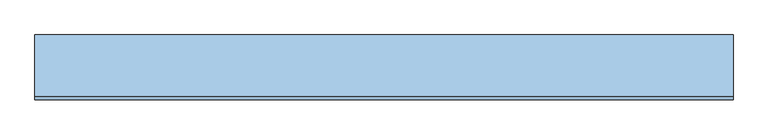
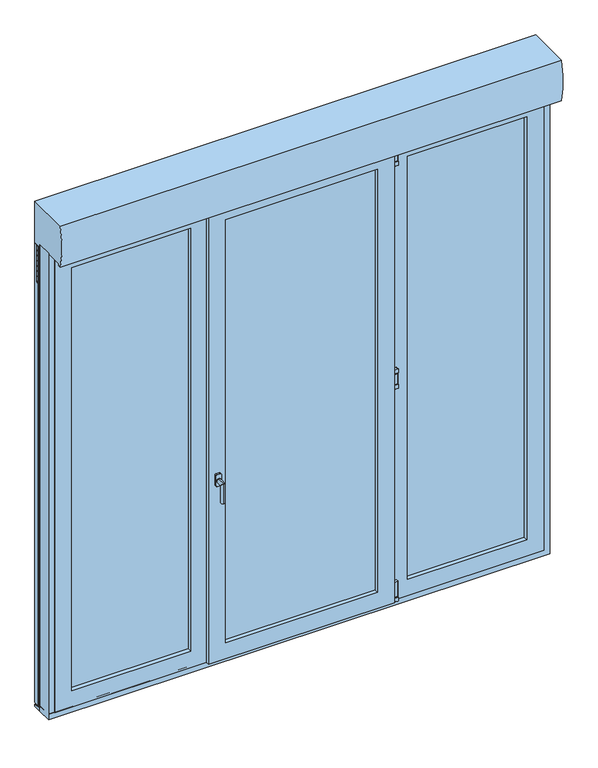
"""IFC4 building model written with IfcOpenShell, lengths in millimetres: window geometry, 25. PF1 + Fixe à G et à D ENR PVC-ALU : PF3  260X236 (LXH) cm."""

from ifc_helpers import new_model, si_unit, point, frame, frame_2d, origin, place, context, project, spatial, polyline, circle_curve, ellipse_curve, trimmed, segment, composite_curve, outline, extrude, faceted_brep, source, transform, mapped, element, save
from ifc_brep_helpers import plane_surface, cylinder_surface, advanced_brep


def window_10f17370(model_context):
    return source(origin(), model_context, "Body", "SolidModel", [
        extrude(outline(composite_curve([segment(polyline([(2311.552, 450.52), (2311.552, 465.52), (2329.5583831, 465.52)]), True, "CONTINUOUS"), segment(trimmed(circle_curve(frame_2d((2329.5583831, 463.5263831)), 1.9936169), [point((2329.5583831, 465.52))], [point((2331.552, 463.5263831))], False, "CARTESIAN"), True, "CONTINUOUS"), segment(polyline([(2331.552, 463.5263831), (2331.552, 452.4876754)]), True, "CONTINUOUS"), segment(trimmed(circle_curve(frame_2d((2329.5843246, 452.4876754)), 1.9676754), [point((2331.552, 452.4876754))], [point((2329.5843246, 450.52))], False, "CARTESIAN"), True, "CONTINUOUS"), segment(polyline([(2329.5843246, 450.52), (2311.552, 450.52)]), True, "CONTINUOUS")], self_intersect=False)), frame((0.0, -115.9543176, 0.0), z_axis=(0.0, 1.0, 0.0), x_axis=(0.0, 0.0, 1.0)), (0.0, 0.0, 1.0), 15.0),
        extrude(outline(composite_curve([segment(trimmed(circle_curve(frame_2d((458.2405562, -108.463906)), 5.0), [point((453.2405562, -108.463906))], [point((463.2405562, -108.463906))], False, "CARTESIAN"), True, "CONTINUOUS"), segment(trimmed(circle_curve(frame_2d((458.2405562, -108.463906)), 5.0), [point((463.2405562, -108.463906))], [point((453.2405562, -108.463906))], False, "CARTESIAN"), True, "CONTINUOUS")], self_intersect=False)), frame((0.0, 0.0, 2251.552), z_axis=(0.0, 0.0, 1.0), x_axis=(1.0, 0.0, 0.0)), (0.0, 0.0, 1.0), 60.0),
        extrude(outline(composite_curve([segment(polyline([(445.52, -100.963906), (463.5618237, -100.963906)]), True, "CONTINUOUS"), segment(trimmed(circle_curve(frame_2d((463.5618237, -102.9220823)), 1.9581763), [point((463.5618237, -100.963906))], [point((465.52, -102.9220823))], False, "CARTESIAN"), True, "CONTINUOUS"), segment(polyline([(465.52, -102.9220823), (465.52, -113.9457286)]), True, "CONTINUOUS"), segment(trimmed(circle_curve(frame_2d((463.5018225, -113.9457286)), 2.0181775), [point((465.52, -113.9457286))], [point((463.5018225, -115.963906))], False, "CARTESIAN"), True, "CONTINUOUS"), segment(polyline([(463.5018225, -115.963906), (445.52, -115.963906), (445.52, -100.963906)]), True, "CONTINUOUS")], self_intersect=False)), frame((0.0, 0.0, 2257.2784618), z_axis=(0.0, 0.0, 1.0), x_axis=(1.0, 0.0, 0.0)), (0.0, 0.0, 1.0), 50.0),
        extrude(outline(composite_curve([segment(polyline([(2252.2784618, 465.7405562), (2252.2784618, 450.7405562), (2234.2877116, 450.7405562)]), True, "CONTINUOUS"), segment(trimmed(circle_curve(frame_2d((2234.2877116, 452.7498059)), 2.0092498), [point((2234.2877116, 450.7405562))], [point((2232.2784618, 452.7498059))], False, "CARTESIAN"), True, "CONTINUOUS"), segment(polyline([(2232.2784618, 452.7498059), (2232.2784618, 464.0903507)]), True, "CONTINUOUS"), segment(trimmed(circle_curve(frame_2d((2234.2521312, 463.7668867)), 2.0), [point((2232.2784618, 464.0903507))], [point((2233.9286672, 465.7405562))], False, "CARTESIAN"), True, "CONTINUOUS"), segment(polyline([(2233.9286672, 465.7405562), (2252.2784618, 465.7405562)]), True, "CONTINUOUS")], self_intersect=False)), frame((0.0, -115.9543176, 0.0), z_axis=(0.0, 1.0, 0.0), x_axis=(0.0, 0.0, 1.0)), (0.0, 0.0, 1.0), 15.0),
        extrude(outline(composite_curve([segment(trimmed(circle_curve(frame_2d((458.3508343, -108.463906)), 5.0), [point((453.3508343, -108.463906))], [point((463.3508343, -108.463906))], False, "CARTESIAN"), True, "CONTINUOUS"), segment(trimmed(circle_curve(frame_2d((458.3508343, -108.463906)), 5.0), [point((463.3508343, -108.463906))], [point((453.3508343, -108.463906))], False, "CARTESIAN"), True, "CONTINUOUS")], self_intersect=False)), frame((0.0, 0.0, 48.448), z_axis=(0.0, 0.0, 1.0), x_axis=(1.0, 0.0, 0.0)), (0.0, 0.0, 1.0), 5.0),
        extrude(outline(composite_curve([segment(polyline([(48.448, 465.8508343), (48.448, 450.8508343), (30.4572498, 450.8508343)]), True, "CONTINUOUS"), segment(trimmed(circle_curve(frame_2d((30.4572498, 452.860084)), 2.0092498), [point((30.4572498, 450.8508343))], [point((28.448, 452.860084))], False, "CARTESIAN"), True, "CONTINUOUS"), segment(polyline([(28.448, 452.860084), (28.448, 464.2006288)]), True, "CONTINUOUS"), segment(trimmed(circle_curve(frame_2d((30.4216694, 463.8771648)), 2.0), [point((28.448, 464.2006288))], [point((30.0982054, 465.8508343))], False, "CARTESIAN"), True, "CONTINUOUS"), segment(polyline([(30.0982054, 465.8508343), (48.448, 465.8508343)]), True, "CONTINUOUS")], self_intersect=False)), frame((0.0, -115.9543176, 0.0), z_axis=(0.0, 1.0, 0.0), x_axis=(0.0, 0.0, 1.0)), (0.0, 0.0, 1.0), 15.0),
        extrude(outline(composite_curve([segment(polyline([(445.6302781, -100.963906), (463.6721018, -100.963906)]), True, "CONTINUOUS"), segment(trimmed(circle_curve(frame_2d((463.6721018, -102.9220823)), 1.9581763), [point((463.6721018, -100.963906))], [point((465.6302781, -102.9220823))], False, "CARTESIAN"), True, "CONTINUOUS"), segment(polyline([(465.6302781, -102.9220823), (465.6302781, -113.9457286)]), True, "CONTINUOUS"), segment(trimmed(circle_curve(frame_2d((463.6121006, -113.9457286)), 2.0181775), [point((465.6302781, -113.9457286))], [point((463.6121006, -115.963906))], False, "CARTESIAN"), True, "CONTINUOUS"), segment(polyline([(463.6121006, -115.963906), (445.6302781, -115.963906), (445.6302781, -100.963906)]), True, "CONTINUOUS")], self_intersect=False)), frame((0.0, 0.0, 53.448), z_axis=(0.0, 0.0, 1.0), x_axis=(1.0, 0.0, 0.0)), (0.0, 0.0, 1.0), 75.0),
        extrude(outline(composite_curve([segment(polyline([(1183.7215382, 450.52), (1183.7215382, 465.52), (1201.7279213, 465.52)]), True, "CONTINUOUS"), segment(trimmed(circle_curve(frame_2d((1201.7279213, 463.5263831)), 1.9936169), [point((1201.7279213, 465.52))], [point((1203.7215382, 463.5263831))], False, "CARTESIAN"), True, "CONTINUOUS"), segment(polyline([(1203.7215382, 463.5263831), (1203.7215382, 452.4876754)]), True, "CONTINUOUS"), segment(trimmed(circle_curve(frame_2d((1201.7538628, 452.4876754)), 1.9676754), [point((1203.7215382, 452.4876754))], [point((1201.7538628, 450.52))], False, "CARTESIAN"), True, "CONTINUOUS"), segment(polyline([(1201.7538628, 450.52), (1183.7215382, 450.52)]), True, "CONTINUOUS")], self_intersect=False)), frame((0.0, -115.9543176, 0.0), z_axis=(0.0, 1.0, 0.0), x_axis=(0.0, 0.0, 1.0)), (0.0, 0.0, 1.0), 15.0),
        extrude(outline(composite_curve([segment(trimmed(circle_curve(frame_2d((458.2405562, -108.463906)), 5.0), [point((453.2405562, -108.463906))], [point((463.2405562, -108.463906))], False, "CARTESIAN"), True, "CONTINUOUS"), segment(trimmed(circle_curve(frame_2d((458.2405562, -108.463906)), 5.0), [point((463.2405562, -108.463906))], [point((453.2405562, -108.463906))], False, "CARTESIAN"), True, "CONTINUOUS")], self_intersect=False)), frame((0.0, 0.0, 1123.7215382), z_axis=(0.0, 0.0, 1.0), x_axis=(1.0, 0.0, 0.0)), (0.0, 0.0, 1.0), 60.0),
        extrude(outline(composite_curve([segment(polyline([(445.52, -100.963906), (463.5618237, -100.963906)]), True, "CONTINUOUS"), segment(trimmed(circle_curve(frame_2d((463.5618237, -102.9220823)), 1.9581763), [point((463.5618237, -100.963906))], [point((465.52, -102.9220823))], False, "CARTESIAN"), True, "CONTINUOUS"), segment(polyline([(465.52, -102.9220823), (465.52, -113.9457286)]), True, "CONTINUOUS"), segment(trimmed(circle_curve(frame_2d((463.5018225, -113.9457286)), 2.0181775), [point((465.52, -113.9457286))], [point((463.5018225, -115.963906))], False, "CARTESIAN"), True, "CONTINUOUS"), segment(polyline([(463.5018225, -115.963906), (445.52, -115.963906), (445.52, -100.963906)]), True, "CONTINUOUS")], self_intersect=False)), frame((0.0, 0.0, 1129.448), z_axis=(0.0, 0.0, 1.0), x_axis=(1.0, 0.0, 0.0)), (0.0, 0.0, 1.0), 50.0),
        extrude(outline(composite_curve([segment(polyline([(1124.448, 465.7405562), (1124.448, 450.7405562), (1106.4572498, 450.7405562)]), True, "CONTINUOUS"), segment(trimmed(circle_curve(frame_2d((1106.4572498, 452.7498059)), 2.0092498), [point((1106.4572498, 450.7405562))], [point((1104.448, 452.7498059))], False, "CARTESIAN"), True, "CONTINUOUS"), segment(polyline([(1104.448, 452.7498059), (1104.448, 464.0903507)]), True, "CONTINUOUS"), segment(trimmed(circle_curve(frame_2d((1106.4216694, 463.7668867)), 2.0), [point((1104.448, 464.0903507))], [point((1106.0982054, 465.7405562))], False, "CARTESIAN"), True, "CONTINUOUS"), segment(polyline([(1106.0982054, 465.7405562), (1124.448, 465.7405562)]), True, "CONTINUOUS")], self_intersect=False)), frame((0.0, -115.9543176, 0.0), z_axis=(0.0, 1.0, 0.0), x_axis=(0.0, 0.0, 1.0)), (0.0, 0.0, 1.0), 15.0),
        advanced_brep(
        [(-394.08, -129.3239543, 981.448), (-409.08, -129.3239543, 981.448), (-414.08, -129.3239543, 976.448), (-414.08, -129.3239543, 926.448), (-409.08, -129.3239543, 921.448), (-394.08, -129.3239543, 921.448), (-389.08, -129.3239543, 926.448), (-389.08, -129.3239543, 976.448), (-401.3028127, -129.3239543, 959.2518349), (-401.3028127, -129.3239543, 939.2518349), (-394.08, -119.3239543, 981.448), (-389.08, -119.3239543, 976.448), (-389.08, -119.3239543, 926.448), (-394.08, -119.3239543, 921.448), (-409.08, -119.3239543, 921.448), (-414.08, -119.3239543, 926.448), (-414.08, -119.3239543, 976.448), (-409.08, -119.3239543, 981.448), (-401.3028127, -133.0531938, 939.2518349), (-401.3028127, -133.0531938, 959.2518349), (-401.3028127, -173.0531938, 959.2518349), (-401.3028127, -153.0531938, 939.2518349), (-401.3028127, -173.0531938, 859.2518349), (-401.3028127, -153.0531938, 859.2518349)],
        [
            (0, 1),
            (1, 2, circle_curve(frame((-409.08, -129.3239543, 976.448), z_axis=(0.0, -1.0, 0.0), x_axis=(-1.0, 0.0, 0.0)), 5.0)),
            (2, 3),
            (3, 4, circle_curve(frame((-409.08, -129.3239543, 926.448), z_axis=(0.0, -1.0, 0.0), x_axis=(-1.0, 0.0, 0.0)), 5.0)),
            (4, 5),
            (5, 6, circle_curve(frame((-394.08, -129.3239543, 926.448), z_axis=(0.0, -1.0, 0.0), x_axis=(-1.0, 0.0, 0.0)), 5.0)),
            (6, 7),
            (7, 0, circle_curve(frame((-394.08, -129.3239543, 976.448), z_axis=(0.0, -1.0, 0.0), x_axis=(-1.0, 0.0, 0.0)), 5.0)),
            (8, 9, circle_curve(frame((-401.3028127, -129.3239543, 949.2518349), z_axis=(0.0, 1.0, 0.0), x_axis=(0.0, 0.0, -1.0)), 10.0)),
            (9, 8, circle_curve(frame((-401.3028127, -129.3239543, 949.2518349), z_axis=(0.0, 1.0, 0.0), x_axis=(0.0, 0.0, -1.0)), 10.0)),
            (10, 11, circle_curve(frame((-394.08, -119.3239543, 976.448), z_axis=(0.0, 1.0, 0.0), x_axis=(-1.0, 0.0, 0.0)), 5.0)),
            (11, 12),
            (12, 13, circle_curve(frame((-394.08, -119.3239543, 926.448), z_axis=(0.0, 1.0, 0.0), x_axis=(-1.0, 0.0, 0.0)), 5.0)),
            (13, 14),
            (14, 15, circle_curve(frame((-409.08, -119.3239543, 926.448), z_axis=(0.0, 1.0, 0.0), x_axis=(-1.0, 0.0, 0.0)), 5.0)),
            (15, 16),
            (16, 17, circle_curve(frame((-409.08, -119.3239543, 976.448), z_axis=(0.0, 1.0, 0.0), x_axis=(-1.0, 0.0, 0.0)), 5.0)),
            (17, 10),
            (7, 11),
            (10, 0),
            (6, 12),
            (5, 13),
            (4, 14),
            (3, 15),
            (2, 16),
            (1, 17),
            (18, 19, circle_curve(frame((-401.3028127, -133.0531938, 949.2518349), z_axis=(0.0, -1.0, 0.0), x_axis=(0.0, 0.0, -1.0)), 10.0)),
            (19, 20),
            (20, 21, ellipse_curve(frame((-401.3028127, -163.0531938, 949.2518349), z_axis=(0.0, 0.7071067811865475, 0.7071067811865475), x_axis=(0.0, 0.7071067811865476, -0.7071067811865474)), 14.1421356, 10.0)),
            (21, 18),
            (19, 18, circle_curve(frame((-401.3028127, -133.0531938, 949.2518349), z_axis=(0.0, -1.0, 0.0), x_axis=(0.0, 0.0, -1.0)), 10.0)),
            (21, 20, ellipse_curve(frame((-401.3028127, -163.0531938, 949.2518349), z_axis=(0.0, 0.7071067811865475, 0.7071067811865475), x_axis=(0.0, 0.7071067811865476, -0.7071067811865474)), 14.1421356, 10.0)),
            (22, 23, circle_curve(frame((-401.3028127, -163.0531938, 859.2518349), z_axis=(0.0, 0.0, -1.0), x_axis=(0.0, 1.0, 0.0)), 10.0)),
            (23, 22, circle_curve(frame((-401.3028127, -163.0531938, 859.2518349), z_axis=(0.0, 0.0, -1.0), x_axis=(0.0, 1.0, 0.0)), 10.0)),
            (20, 22),
            (23, 21),
            (18, 9),
            (8, 19),
        ],
        [
            plane_surface(frame((-399.08, -129.3239543, 976.448), z_axis=(0.0, -1.0, 0.0), x_axis=(0.0, 0.0, -1.0))),
            plane_surface(frame((-399.08, -119.3239543, 976.448), z_axis=(0.0, 1.0, 0.0), x_axis=(0.0, 0.0, 1.0))),
            cylinder_surface(frame((-394.08, -129.3239543, 976.448), z_axis=(0.0, 1.0, 0.0), x_axis=(-1.0, 0.0, 0.0)), 5.0),
            plane_surface(frame((-389.08, -119.3239543, 976.448), z_axis=(1.0, 0.0, 0.0), x_axis=(0.0, -1.0, 0.0))),
            cylinder_surface(frame((-394.08, -129.3239543, 926.448), z_axis=(0.0, 1.0, 0.0), x_axis=(-1.0, 0.0, 0.0)), 5.0),
            plane_surface(frame((-394.08, -119.3239543, 921.448), z_axis=(0.0, 0.0, -1.0), x_axis=(0.0, -1.0, 0.0))),
            cylinder_surface(frame((-409.08, -129.3239543, 926.448), z_axis=(0.0, 1.0, 0.0), x_axis=(-1.0, 0.0, 0.0)), 5.0),
            plane_surface(frame((-414.08, -119.3239543, 926.448), z_axis=(-1.0, 0.0, 0.0), x_axis=(0.0, -1.0, 0.0))),
            cylinder_surface(frame((-409.08, -129.3239543, 976.448), z_axis=(0.0, 1.0, 0.0), x_axis=(-1.0, 0.0, 0.0)), 5.0),
            plane_surface(frame((-409.08, -119.3239543, 981.448), z_axis=(0.0, 0.0, 1.0), x_axis=(0.0, -1.0, 0.0))),
            cylinder_surface(frame((-401.3028127, -133.0531938, 949.2518349), z_axis=(0.0, 1.0, 0.0), x_axis=(0.0, 0.0, -1.0)), 10.0),
            plane_surface(frame((-389.08, -163.0531938, 859.2518349), z_axis=(0.0, 0.0, -1.0), x_axis=(1.0, 0.0, 0.0))),
            cylinder_surface(frame((-401.3028127, -163.0531938, 949.2518349), z_axis=(0.0, 0.0, 1.0), x_axis=(0.0, 1.0, 0.0)), 10.0),
            cylinder_surface(frame((-401.3028127, -129.3239543, 949.2518349), z_axis=(0.0, 1.0, 0.0), x_axis=(0.0, 0.0, -1.0)), 10.0),
        ],
        [
            (0, [[1, 2, 3, 4, 5, 6, 7, 8], [9, 10]]),
            (1, [[11, 12, 13, 14, 15, 16, 17, 18]]),
            (2, [[-8, 19, -11, 20]]),
            (3, [[-7, 21, -12, -19]]),
            (4, [[-6, 22, -13, -21]]),
            (5, [[-5, 23, -14, -22]]),
            (6, [[-4, 24, -15, -23]]),
            (7, [[-3, 25, -16, -24]]),
            (8, [[-2, 26, -17, -25]]),
            (9, [[-1, -20, -18, -26]]),
            (10, [[27, 28, 29, 30]]),
            (10, [[-28, 31, -30, 32]]),
            (11, [[33, 34]]),
            (12, [[-29, 35, -34, 36]]),
            (12, [[-32, -36, -33, -35]]),
            (13, [[-27, 37, -9, 38]]),
            (13, [[-31, -38, -10, -37]]),
        ],
    ),
        faceted_brep([(-1200.0, -100.02, 2360.0), (-1200.0, -28.9, 2360.0), (-1200.0, -28.9, 0.0), (-1200.0, -100.02, 0.0), (1200.0, -28.9, 2360.0), (1200.0, -28.9, 0.0), (-1142.0983858, -28.9, 57.9016142), (1142.0983858, -28.9, 57.9016142), (1142.0983858, -28.9, 2302.0983858), (-1142.0983858, -28.9, 2302.0983858), (1200.0, -100.02, 0.0), (1200.0, -100.02, 2360.0), (-1163.424, -100.02, 2323.424), (1163.424, -100.02, 2323.424), (1163.424, -100.02, 36.576), (-1163.424, -100.02, 36.576), (-1163.424, -44.648, 2323.424), (-1163.424, -44.648, 36.576), (1163.424, -44.648, 36.576), (1163.424, -44.648, 2323.424), (-1142.0983858, -44.648, 2302.0983858), (1142.0983858, -44.648, 2302.0983858), (1142.0983858, -44.648, 57.9016142), (-1142.0983858, -44.648, 57.9016142)], [[[0, 1, 2, 3]], [[1, 4, 5, 2], [6, 7, 8, 9]], [[3, 2, 5, 10]], [[3, 10, 11, 0], [12, 13, 14, 15]], [[16, 12, 15, 17]], [[17, 15, 14, 18]], [[17, 18, 19, 16], [20, 21, 22, 23]], [[9, 20, 23, 6]], [[6, 23, 22, 7]], [[10, 5, 4, 11]], [[18, 14, 13, 19]], [[7, 22, 21, 8]], [[11, 4, 1, 0]], [[19, 13, 12, 16]], [[8, 21, 20, 9]]]),
        extrude(outline(polyline([(-1103.4, -79.613906), (-1103.4, -75.613906), (-505.5, -75.613906), (-505.5, -79.613906), (-1103.4, -79.613906)])), frame((0.0, 0.0, 96.5824883), z_axis=(0.0, 0.0, 1.0), x_axis=(1.0, 0.0, 0.0)), (0.0, 0.0, 1.0), 2166.8350233),
        extrude(outline(polyline([(-1103.4, -55.6171544), (-1103.4, -51.6171544), (-505.5, -51.6171544), (-505.5, -55.6171544), (-1103.4, -55.6171544)])), frame((0.0, 0.0, 96.5824883), z_axis=(0.0, 0.0, 1.0), x_axis=(1.0, 0.0, 0.0)), (0.0, 0.0, 1.0), 2166.8350233),
        extrude(outline(polyline([(377.4, -41.9821328), (377.4, -45.9734215), (-377.5, -45.9734215), (-377.5, -41.9821328), (377.4, -41.9821328)])), frame((0.0, 0.0, 96.5824883), z_axis=(0.0, 0.0, 1.0), x_axis=(1.0, 0.0, 0.0)), (0.0, 0.0, 1.0), 2166.8350233),
        extrude(outline(polyline([(377.4, -96.019954), (377.4, -100.019954), (-377.5, -100.019954), (-377.5, -96.019954), (377.4, -96.019954)])), frame((0.0, 0.0, 96.5824883), z_axis=(0.0, 0.0, 1.0), x_axis=(1.0, 0.0, 0.0)), (0.0, 0.0, 1.0), 2166.8350233),
        extrude(outline(polyline([(377.4, -68.9786213), (377.4, -72.9786213), (-377.5, -72.9786213), (-377.5, -68.9786213), (377.4, -68.9786213)])), frame((0.0, 0.0, 96.5824883), z_axis=(0.0, 0.0, 1.0), x_axis=(1.0, 0.0, 0.0)), (0.0, 0.0, 1.0), 2166.8350233),
        extrude(outline(polyline([(1103.4, -75.613906), (1103.4, -79.613906), (505.5, -79.613906), (505.5, -75.613906), (1103.4, -75.613906)])), frame((0.0, 0.0, 96.5824883), z_axis=(0.0, 0.0, 1.0), x_axis=(1.0, 0.0, 0.0)), (0.0, 0.0, 1.0), 2166.8350233),
        extrude(outline(polyline([(1103.4, -51.6171544), (1103.4, -55.6171544), (505.5, -55.6171544), (505.5, -51.6171544), (1103.4, -51.6171544)])), frame((0.0, 0.0, 96.5824883), z_axis=(0.0, 0.0, 1.0), x_axis=(1.0, 0.0, 0.0)), (0.0, 0.0, 1.0), 2166.8350233),
        faceted_brep([(385.5726701, -48.2039543, 2271.6086701), (385.5726701, -100.019954, 2271.6086701), (385.5726701, -100.019954, 88.3913299), (385.5726701, -48.2039543, 88.3913299), (-385.6926701, -100.019954, 2271.6086701), (-385.6926701, -100.019954, 88.3913299), (377.3815117, -100.019954, 2263.4175117), (377.3815117, -100.019954, 96.5824883), (-377.5015117, -100.019954, 96.5824883), (-377.5015117, -100.019954, 2263.4175117), (-385.6926701, -48.2039543, 88.3913299), (-410.6354701, -48.2039543, 2296.5514701), (-410.6354701, -48.2039543, 63.4485299), (410.5154701, -48.2039543, 63.4485299), (410.5154701, -48.2039543, 2296.5514701), (-385.6926701, -48.2039543, 2271.6086701), (410.5154701, -28.7475756, 2296.5514701), (410.5154701, -28.7475756, 63.4485299), (-410.6354701, -28.7475756, 63.4485299), (-410.6354701, -28.7475756, 2296.5514701), (-359.4233386, -28.7475756, 2245.3393386), (-359.4233386, -28.7475756, 114.6606614), (359.3033386, -28.7475756, 114.6606614), (359.3033386, -28.7475756, 2245.3393386), (359.3033386, -41.5821328, 2245.3393386), (359.3033386, -41.5821328, 114.6606614), (-359.4233386, -41.5821328, 114.6606614), (-377.5015117, -41.5821328, 2263.4175117), (-377.5015117, -41.5821328, 96.5824883), (377.3815117, -41.5821328, 96.5824883), (377.3815117, -41.5821328, 2263.4175117), (-359.4233386, -41.5821328, 2245.3393386), (360.1614041, -68.9786213, 2246.1974041), (360.1614041, -47.5821328, 2246.1974041), (360.1614041, -47.5821328, 113.8025959), (360.1614041, -68.9786213, 113.8025959), (377.3815117, -47.5821328, 2263.4175117), (377.3815117, -47.5821328, 96.5824883), (-377.5015117, -47.5821328, 96.5824883), (-377.5015117, -47.5821328, 2263.4175117), (-360.2814041, -47.5821328, 2246.1974041), (-360.2814041, -47.5821328, 113.8025959), (-360.2814041, -68.9786213, 113.8025959), (-377.5015117, -68.9786213, 2263.4175117), (-377.5015117, -68.9786213, 96.5824883), (377.3815117, -68.9786213, 96.5824883), (377.3815117, -68.9786213, 2263.4175117), (-360.2814041, -68.9786213, 2246.1974041), (363.4880492, -96.019954, 2249.5240492), (363.4880492, -72.9786213, 2249.5240492), (363.4880492, -72.9786213, 110.4759508), (363.4880492, -96.019954, 110.4759508), (377.3815117, -72.9786213, 2263.4175117), (377.3815117, -72.9786213, 96.5824883), (-377.5015117, -72.9786213, 96.5824883), (-377.5015117, -72.9786213, 2263.4175117), (-363.6080492, -72.9786213, 2249.5240492), (-363.6080492, -72.9786213, 110.4759508), (-363.6080492, -96.019954, 110.4759508), (-377.5015117, -96.019954, 2263.4175117), (-377.5015117, -96.019954, 96.5824883), (377.3815117, -96.019954, 96.5824883), (377.3815117, -96.019954, 2263.4175117), (-363.6080492, -96.019954, 2249.5240492)], [[[0, 1, 2, 3]], [[4, 5, 2, 1], [6, 7, 8, 9]], [[3, 2, 5, 10]], [[11, 12, 13, 14], [0, 3, 10, 15]], [[16, 14, 13, 17]], [[17, 13, 12, 18]], [[16, 17, 18, 19], [20, 21, 22, 23]], [[24, 23, 22, 25]], [[25, 22, 21, 26]], [[27, 28, 29, 30], [24, 25, 26, 31]], [[32, 33, 34, 35]], [[36, 37, 38, 39], [40, 41, 34, 33]], [[35, 34, 41, 42]], [[43, 44, 45, 46], [32, 35, 42, 47]], [[48, 49, 50, 51]], [[52, 53, 54, 55], [56, 57, 50, 49]], [[51, 50, 57, 58]], [[59, 60, 61, 62], [48, 51, 58, 63]], [[6, 62, 61, 7]], [[7, 61, 60, 8]], [[36, 30, 29, 37]], [[37, 29, 28, 38]], [[52, 46, 45, 53]], [[53, 45, 44, 54]], [[58, 57, 56, 63]], [[8, 60, 59, 9]], [[10, 5, 4, 15]], [[18, 12, 11, 19]], [[26, 21, 20, 31]], [[38, 28, 27, 39]], [[42, 41, 40, 47]], [[54, 44, 43, 55]], [[15, 4, 1, 0]], [[19, 11, 14, 16]], [[31, 20, 23, 24]], [[47, 40, 33, 32]], [[63, 56, 49, 48]], [[9, 59, 62, 6]], [[39, 27, 30, 36]], [[55, 43, 46, 52]]]),
        faceted_brep([(-1142.0663858, -44.648, 2302.0983858), (-1142.0663858, -28.9, 2302.0983858), (-1142.0663858, -28.9, 57.9016142), (-1142.0663858, -44.648, 57.9016142), (-466.8456142, -28.9, 2302.0983858), (-466.8456142, -28.9, 57.9016142), (-1089.4920492, -28.9, 110.4759508), (-519.4199508, -28.9, 110.4759508), (-519.4199508, -28.9, 2249.5240492), (-1089.4920492, -28.9, 2249.5240492), (-466.8456142, -44.648, 57.9016142), (-1171.52, -44.648, 2331.552), (-437.392, -44.648, 2331.552), (-437.392, -44.648, 28.448), (-1171.52, -44.648, 28.448), (-466.8456142, -44.648, 2302.0983858), (-1089.4920492, -51.6171134, 110.4759508), (-519.4199508, -51.6171134, 110.4759508), (-519.4199508, -51.6171134, 2249.5240492), (-1089.4920492, -51.6171134, 2249.5240492), (-437.392, -100.963906, 28.448), (-437.392, -100.963906, 2331.552), (-1171.52, -100.963906, 28.448), (-1171.52, -100.963906, 2331.552), (-1089.4920492, -100.963906, 2249.5240492), (-519.4199508, -100.963906, 2249.5240492), (-519.4199508, -100.963906, 110.4759508), (-1089.4920492, -100.963906, 110.4759508), (-519.4199508, -79.613906, 110.4759508), (-519.4199508, -79.613906, 2249.5240492), (-1089.4920492, -79.613906, 110.4759508), (-1089.4920492, -79.613906, 2249.5240492), (-1103.3855117, -51.6171134, 96.5824883), (-505.5264883, -51.6171134, 96.5824883), (-505.5264883, -51.6171134, 2263.4175117), (-1103.3855117, -51.6171134, 2263.4175117), (-1103.3855117, -55.6171544, 2263.4175117), (-1103.3855117, -55.6171544, 96.5824883), (-505.5264883, -55.6171544, 2263.4175117), (-505.5264883, -55.6171544, 96.5824883), (-1089.4920492, -55.6171544, 110.4759508), (-519.4199508, -55.6171544, 110.4759508), (-519.4199508, -55.6171544, 2249.5240492), (-1089.4920492, -55.6171544, 2249.5240492), (-1103.3855117, -75.613906, 2263.4175117), (-1103.3855117, -79.613906, 2263.4175117), (-1103.3855117, -79.613906, 96.5824883), (-1103.3855117, -75.613906, 96.5824883), (-505.5264883, -79.613906, 2263.4175117), (-505.5264883, -79.613906, 96.5824883), (-505.5264883, -75.613906, 96.5824883), (-505.5264883, -75.613906, 2263.4175117), (-1089.4920492, -75.613906, 2249.5240492), (-519.4199508, -75.613906, 2249.5240492), (-519.4199508, -75.613906, 110.4759508), (-1089.4920492, -75.613906, 110.4759508)], [[[0, 1, 2, 3]], [[1, 4, 5, 2], [6, 7, 8, 9]], [[3, 2, 5, 10]], [[11, 12, 13, 14], [3, 10, 15, 0]], [[10, 5, 4, 15]], [[6, 16, 17, 7]], [[7, 17, 18, 8]], [[9, 19, 16, 6]], [[20, 13, 12, 21]], [[22, 14, 13, 20]], [[23, 11, 14, 22]], [[22, 20, 21, 23], [24, 25, 26, 27]], [[28, 26, 25, 29]], [[30, 27, 26, 28]], [[31, 24, 27, 30]], [[32, 33, 34, 35], [19, 18, 17, 16]], [[35, 36, 37, 32]], [[36, 38, 39, 37], [40, 41, 42, 43]], [[32, 37, 39, 33]], [[44, 45, 46, 47]], [[45, 48, 49, 46], [30, 28, 29, 31]], [[47, 46, 49, 50]], [[47, 50, 51, 44], [52, 53, 54, 55]], [[33, 39, 38, 34]], [[50, 49, 48, 51]], [[40, 55, 54, 41]], [[41, 54, 53, 42]], [[43, 52, 55, 40]], [[15, 4, 1, 0]], [[21, 12, 11, 23]], [[8, 18, 19, 9]], [[34, 38, 36, 35]], [[51, 48, 45, 44]], [[29, 25, 24, 31]], [[42, 53, 52, 43]]]),
        extrude(outline(polyline([(-437.392, -100.0), (-437.392, -44.648), (-466.8456142, -44.648), (-466.8456142, -28.9), (-410.5194701, -28.9), (-410.5194701, -44.648), (-425.2, -44.648), (-425.2, -100.0), (-437.392, -100.0)])), frame((0.0, 0.0, 57.9016142), z_axis=(0.0, 0.0, 1.0), x_axis=(1.0, 0.0, 0.0)), (0.0, 0.0, 1.0), 2244.1),
        extrude(outline(polyline([(437.392, -100.0), (425.2, -100.0), (425.2, -44.648), (410.5194701, -44.648), (410.5194701, -28.9), (466.8456142, -28.9), (466.8456142, -44.648), (437.392, -44.648), (437.392, -100.0)])), frame((0.0, 0.0, 57.9016142), z_axis=(0.0, 0.0, 1.0), x_axis=(1.0, 0.0, 0.0)), (0.0, 0.0, 1.0), 2244.1),
        faceted_brep([(1142.0663858, -28.9, 2302.0983858), (1142.0663858, -44.648, 2302.0983858), (1142.0663858, -44.648, 57.9016142), (1142.0663858, -28.9, 57.9016142), (1171.52, -44.648, 28.448), (437.392, -44.648, 28.448), (437.392, -44.648, 2331.552), (1171.52, -44.648, 2331.552), (466.8456142, -44.648, 2302.0983858), (466.8456142, -44.648, 57.9016142), (466.8456142, -28.9, 57.9016142), (466.8456142, -28.9, 2302.0983858), (1089.4920492, -28.9, 2249.5240492), (519.4199508, -28.9, 2249.5240492), (519.4199508, -28.9, 110.4759508), (1089.4920492, -28.9, 110.4759508), (519.4199508, -51.6171134, 110.4759508), (519.4199508, -51.6171134, 2249.5240492), (1089.4920492, -51.6171134, 110.4759508), (1089.4920492, -51.6171134, 2249.5240492), (1171.52, -100.963906, 28.448), (437.392, -100.963906, 28.448), (437.392, -100.963906, 2331.552), (1171.52, -100.963906, 2331.552), (1089.4920492, -100.963906, 110.4759508), (519.4199508, -100.963906, 110.4759508), (519.4199508, -100.963906, 2249.5240492), (1089.4920492, -100.963906, 2249.5240492), (1089.4920492, -79.613906, 110.4759508), (519.4199508, -79.613906, 110.4759508), (519.4199508, -79.613906, 2249.5240492), (1089.4920492, -79.613906, 2249.5240492), (1103.3855117, -51.6171134, 2263.4175117), (505.5264883, -51.6171134, 2263.4175117), (505.5264883, -51.6171134, 96.5824883), (1103.3855117, -51.6171134, 96.5824883), (1103.3855117, -55.6171544, 2263.4175117), (1103.3855117, -55.6171544, 96.5824883), (505.5264883, -55.6171544, 96.5824883), (505.5264883, -55.6171544, 2263.4175117), (1089.4920492, -55.6171544, 2249.5240492), (519.4199508, -55.6171544, 2249.5240492), (519.4199508, -55.6171544, 110.4759508), (1089.4920492, -55.6171544, 110.4759508), (1103.3855117, -79.613906, 2263.4175117), (1103.3855117, -75.613906, 2263.4175117), (1103.3855117, -75.613906, 96.5824883), (1103.3855117, -79.613906, 96.5824883), (505.5264883, -75.613906, 2263.4175117), (505.5264883, -75.613906, 96.5824883), (1089.4920492, -75.613906, 110.4759508), (519.4199508, -75.613906, 110.4759508), (519.4199508, -75.613906, 2249.5240492), (1089.4920492, -75.613906, 2249.5240492), (505.5264883, -79.613906, 96.5824883), (505.5264883, -79.613906, 2263.4175117)], [[[0, 1, 2, 3]], [[4, 5, 6, 7], [1, 8, 9, 2]], [[3, 2, 9, 10]], [[3, 10, 11, 0], [12, 13, 14, 15]], [[10, 9, 8, 11]], [[16, 14, 13, 17]], [[18, 15, 14, 16]], [[19, 12, 15, 18]], [[4, 20, 21, 5]], [[5, 21, 22, 6]], [[7, 23, 20, 4]], [[23, 22, 21, 20], [24, 25, 26, 27]], [[24, 28, 29, 25]], [[25, 29, 30, 26]], [[27, 31, 28, 24]], [[32, 33, 34, 35], [18, 16, 17, 19]], [[36, 32, 35, 37]], [[37, 35, 34, 38]], [[37, 38, 39, 36], [40, 41, 42, 43]], [[44, 45, 46, 47]], [[45, 48, 49, 46], [50, 51, 52, 53]], [[47, 46, 49, 54]], [[47, 54, 55, 44], [31, 30, 29, 28]], [[38, 34, 33, 39]], [[54, 49, 48, 55]], [[51, 42, 41, 52]], [[50, 43, 42, 51]], [[53, 40, 43, 50]], [[11, 8, 1, 0]], [[6, 22, 23, 7]], [[17, 13, 12, 19]], [[39, 33, 32, 36]], [[55, 48, 45, 44]], [[26, 30, 31, 27]], [[52, 41, 40, 53]]]),
        faceted_brep([(445.52, -100.0434807, 28.448), (445.52, -119.3239543, 28.448), (-445.636, -119.3239543, 28.448), (-445.636, -100.0434807, 28.448), (-445.636, -119.3239543, 2331.552), (-445.636, -100.0434807, 2331.552), (445.52, -119.3239543, 2331.552), (-363.4345043, -119.3239543, 2249.3505043), (363.3185043, -119.3239543, 2249.3505043), (363.3185043, -119.3239543, 110.6494957), (-363.4345043, -119.3239543, 110.6494957), (445.52, -100.0434807, 2331.552), (-425.316, -100.0434807, 48.768), (425.2, -100.0434807, 48.768), (425.2, -100.0434807, 2311.232), (-425.316, -100.0434807, 2311.232), (363.3185043, -100.019954, 110.6494957), (-363.4345043, -100.019954, 110.6494957), (-363.4345043, -100.019954, 2249.3505043), (-385.6926701, -100.019954, 2271.6086701), (385.5766701, -100.019954, 2271.6086701), (385.5766701, -100.019954, 88.3913299), (-385.6926701, -100.019954, 88.3913299), (363.3185043, -100.019954, 2249.3505043), (385.5766701, -48.2039543, 88.3913299), (-385.6926701, -48.2039543, 88.3913299), (-385.6926701, -48.2039543, 2271.6086701), (-416.1823858, -48.2039543, 2302.0983858), (416.0663858, -48.2039543, 2302.0983858), (416.0663858, -48.2039543, 57.9016142), (-416.1823858, -48.2039543, 57.9016142), (385.5766701, -48.2039543, 2271.6086701), (416.0663858, -44.648, 57.9016142), (-416.1823858, -44.648, 57.9016142), (-416.1823858, -44.648, 2302.0983858), (-425.316, -44.648, 2311.232), (425.2, -44.648, 2311.232), (425.2, -44.648, 48.768), (-425.316, -44.648, 48.768), (416.0663858, -44.648, 2302.0983858)], [[[0, 1, 2, 3]], [[3, 2, 4, 5]], [[2, 1, 6, 4], [7, 8, 9, 10]], [[5, 11, 0, 3], [12, 13, 14, 15]], [[9, 16, 17, 10]], [[10, 17, 18, 7]], [[19, 20, 21, 22], [17, 16, 23, 18]], [[21, 24, 25, 22]], [[22, 25, 26, 19]], [[27, 28, 29, 30], [25, 24, 31, 26]], [[29, 32, 33, 30]], [[30, 33, 34, 27]], [[35, 36, 37, 38], [33, 32, 39, 34]], [[37, 13, 12, 38]], [[38, 12, 15, 35]], [[11, 6, 1, 0]], [[8, 23, 16, 9]], [[20, 31, 24, 21]], [[28, 39, 32, 29]], [[36, 14, 13, 37]], [[5, 4, 6, 11]], [[27, 34, 39, 28]], [[35, 15, 14, 36]], [[7, 18, 23, 8]], [[19, 26, 31, 20]]]),
        extrude(outline(composite_curve([segment(polyline([(-186.3991192, 2350.3409737), (-197.3316724, 2350.3409737)]), True, "CONTINUOUS"), segment(trimmed(circle_curve(frame_2d((189.1050523, 2453.6204869)), 400.0), [point((-197.3316724, 2350.3409737))], [point((-197.3316724, 2556.9))], False, "CARTESIAN"), True, "CONTINUOUS"), segment(polyline([(-197.3316724, 2556.9), (13.0999994, 2556.9), (13.0999994, 2346.0216226), (-4.9499979, 2346.0216226), (-4.9499979, 2344.2216225), (-2.7215215, 2344.2216225), (-2.7215215, 2319.9791617), (-4.9499979, 2319.9791617), (-4.9499979, 2318.1791616), (-2.7215215, 2318.1791616), (-2.7215215, 2293.9367008), (-4.9499979, 2293.9367008), (-4.9499979, 2292.1367006), (-2.7215215, 2292.1367006), (-2.7215215, 2267.8942398), (-4.9499979, 2267.8942398), (-4.9499979, 2266.0942397), (-2.7215215, 2266.0942397), (-2.7215215, 2241.8517789), (-4.9499979, 2241.8517789), (-4.9499979, 2240.0517788), (-2.7215215, 2240.0517788), (-2.7215215, 2215.809318), (-4.9499979, 2215.809318), (-4.9499979, 2214.0093179), (-2.7215215, 2214.0093179), (-2.7215215, 2189.7668571), (-4.9499979, 2189.7668571), (-4.9499979, 2187.966857), (-2.7215215, 2187.966857), (-2.7215215, 2163.7243961), (-4.9499979, 2163.7243961), (-4.9499979, 2161.9243963), (-3.044091, 2161.9243963), (-3.044091, 2158.977424), (-6.4, 2155.6232688), (-9.8999992, 2158.9774251), (-9.8999992, 2161.9243963), (-7.7499979, 2161.9243963), (-7.7499979, 2163.7243961), (-9.9999979, 2163.7243961), (-9.9999979, 2187.9668572), (-7.7499979, 2187.9668572), (-7.7499979, 2189.7668571), (-9.9999979, 2189.7668571), (-9.9999979, 2214.0093181), (-7.7499979, 2214.0093181), (-7.7499979, 2215.809318), (-9.9999979, 2215.809318), (-9.9999979, 2240.051779), (-7.7499979, 2240.051779), (-7.7499979, 2241.8517789), (-9.9999979, 2241.8517789), (-9.9999979, 2266.09424), (-7.7499979, 2266.09424), (-7.7499979, 2267.8942398), (-9.9999979, 2267.8942398), (-9.9999979, 2292.1367009), (-7.7499979, 2292.1367009), (-7.7499979, 2293.9367008), (-9.9999979, 2293.9367008), (-9.9999979, 2318.1791618), (-7.7499979, 2318.1791618), (-7.7499979, 2319.9791617), (-9.9999979, 2319.9791617), (-9.9999979, 2344.2216227), (-7.7499979, 2344.2216227), (-7.7499979, 2346.0216226), (-28.9, 2346.0216226), (-28.9, 2360.0), (-186.3991192, 2360.0), (-186.3991192, 2350.3409737)]), True, "CONTINUOUS")], self_intersect=False)), frame((-1200.0, 0.0, 0.0), z_axis=(1.0, 0.0, 0.0), x_axis=(0.0, 1.0, 0.0)), (0.0, 0.0, 1.0), 2400.0),
        extrude(outline(polyline([(-100.02, 30.0), (-28.9, 30.0), (-28.9, 20.0), (13.1, 10.0), (13.1, 0.0), (-100.02, 0.0), (-100.02, 30.0)])), frame((-1200.0, 0.0, 0.0), z_axis=(1.0, 0.0, 0.0), x_axis=(0.0, 1.0, 0.0)), (0.0, 0.0, 1.0), 2400.0),
        extrude(outline(polyline([(-1199.0, 13.1), (-1199.0, 2.1), (-1179.0, 2.1), (-1179.0, -0.9), (-1199.0, -0.9), (-1199.0, -11.9), (-1179.0, -11.9), (-1179.0, -14.9), (-1199.0, -14.9), (-1199.0, -28.9), (-1200.0, -28.9), (-1200.0, 13.1), (-1199.0, 13.1)])), frame((0.0, 0.0, 20.0), z_axis=(0.0, 0.0, 1.0), x_axis=(1.0, 0.0, 0.0)), (0.0, 0.0, 1.0), 2326.0216226),
        extrude(outline(polyline([(1199.0, 13.1), (1200.0, 13.1), (1200.0, -28.9), (1199.0, -28.9), (1199.0, -14.9), (1179.0, -14.9), (1179.0, -11.9), (1199.0, -11.9), (1199.0, -0.9), (1179.0, -0.9), (1179.0, 2.1), (1199.0, 2.1), (1199.0, 13.1)])), frame((0.0, 0.0, 20.0), z_axis=(0.0, 0.0, 1.0), x_axis=(1.0, 0.0, 0.0)), (0.0, 0.0, 1.0), 2326.0216226),
    ])


if __name__ == "__main__":
    model = new_model("IFC4")
    model_context = context("Model", 3, world=origin())
    ifc_project = project(units=[si_unit("LENGTHUNIT", "METRE", prefix="MILLI")], contexts=[model_context])
    site = spatial("IfcSite", under=ifc_project)
    building = spatial("IfcBuilding", under=site)
    placement = place(None, origin())
    window_shape = window_10f17370(model_context)
    element("IfcWindow", 1, ObjectType="25. PF1 + Fixe à G et à D ENR PVC-ALU : PF3  260X236 (LXH) cm", at=placement, inside=building, context=model_context, shape_type="MappedRepresentation", body=[
        mapped(window_shape, transform((0.0, 0.0, 0.0), x_axis=(1.0, 0.0, 0.0), y_axis=(0.0, 1.0, 0.0), z_axis=(0.0, 0.0, 1.0))),
    ])
    save(model, "model.ifc")
